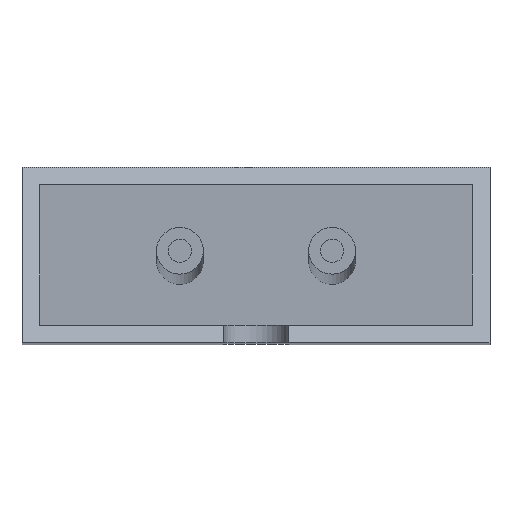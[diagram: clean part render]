
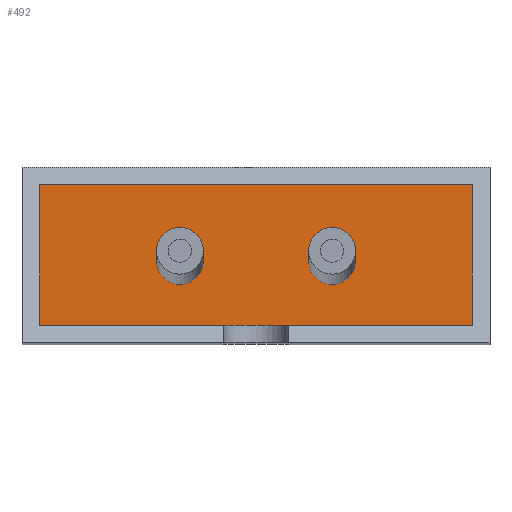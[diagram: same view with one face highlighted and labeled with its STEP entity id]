
A CAD part, top view. The second image highlights one B-rep face of the part: STEP entity #492.
In plain terms, the highlighted planar face has unit normal (0, 0, 1).
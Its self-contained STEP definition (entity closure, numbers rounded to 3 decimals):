
#16=LINE($,#723,#66);
#17=LINE($,#725,#67);
#18=LINE($,#727,#68);
#19=LINE($,#728,#69);
#66=VECTOR($,#596,37.);
#67=VECTOR($,#597,12.);
#68=VECTOR($,#598,37.);
#69=VECTOR($,#599,12.);
#117=PLANE($,#531);
#142=FACE_BOUND($,#185,.T.);
#143=FACE_BOUND($,#186,.T.);
#144=FACE_BOUND($,#187,.T.);
#185=EDGE_LOOP($,(#342));
#186=EDGE_LOOP($,(#343));
#187=EDGE_LOOP($,(#344,#345,#346,#347));
#209=CIRCLE($,#520,2.);
#213=CIRCLE($,#528,2.);
#221=VERTEX_POINT($,#696);
#225=VERTEX_POINT($,#708);
#230=VERTEX_POINT($,#721);
#231=VERTEX_POINT($,#722);
#232=VERTEX_POINT($,#724);
#233=VERTEX_POINT($,#726);
#265=EDGE_CURVE($,#221,#221,#209,.T.);
#269=EDGE_CURVE($,#225,#225,#213,.T.);
#274=EDGE_CURVE($,#230,#231,#16,.T.);
#275=EDGE_CURVE($,#232,#230,#17,.T.);
#276=EDGE_CURVE($,#233,#232,#18,.T.);
#277=EDGE_CURVE($,#231,#233,#19,.T.);
#342=ORIENTED_EDGE($,*,*,#265,.T.);
#343=ORIENTED_EDGE($,*,*,#269,.T.);
#344=ORIENTED_EDGE($,*,*,#274,.F.);
#345=ORIENTED_EDGE($,*,*,#275,.F.);
#346=ORIENTED_EDGE($,*,*,#276,.F.);
#347=ORIENTED_EDGE($,*,*,#277,.F.);
#492=ADVANCED_FACE($,(#142,#143,#144),#117,.T.);
#520=AXIS2_PLACEMENT_3D($,#697,#568,#569);
#528=AXIS2_PLACEMENT_3D($,#709,#584,#585);
#531=AXIS2_PLACEMENT_3D($,#720,#594,#595);
#568=DIRECTION('center_axis',(0.,0.,
-1.));
#569=DIRECTION('ref_axis',(-1.,0.,0.));
#584=DIRECTION('center_axis',(0.,0.,
-1.));
#585=DIRECTION('ref_axis',(-1.,0.,0.));
#594=DIRECTION('center_axis',(0.,0.,
1.));
#595=DIRECTION('ref_axis',(1.,0.,0.));
#596=DIRECTION($,(1.,0.,0.));
#597=DIRECTION($,(0.,1.,0.));
#598=DIRECTION($,(-1.,0.,0.));
#599=DIRECTION($,(0.,-1.,0.));
#696=CARTESIAN_POINT('',(1.922,3.909,41.621));
#697=CARTESIAN_POINT('Origin',(-0.078,3.909,41.621));
#708=CARTESIAN_POINT('',(14.922,3.909,41.621));
#709=CARTESIAN_POINT('Origin',(12.922,3.909,41.621));
#720=CARTESIAN_POINT('Origin',(6.422,4.409,41.621));
#721=CARTESIAN_POINT('',(-12.078,10.409,41.621));
#722=CARTESIAN_POINT('',(24.922,10.409,41.621));
#723=CARTESIAN_POINT($,(16.422,10.409,41.621));
#724=CARTESIAN_POINT('',(-12.078,-1.591,41.621));
#725=CARTESIAN_POINT($,(-12.078,8.159,41.621));
#726=CARTESIAN_POINT('',(24.922,-1.591,41.621));
#727=CARTESIAN_POINT($,(-3.578,-1.591,41.621));
#728=CARTESIAN_POINT($,(24.922,0.659,41.621));
